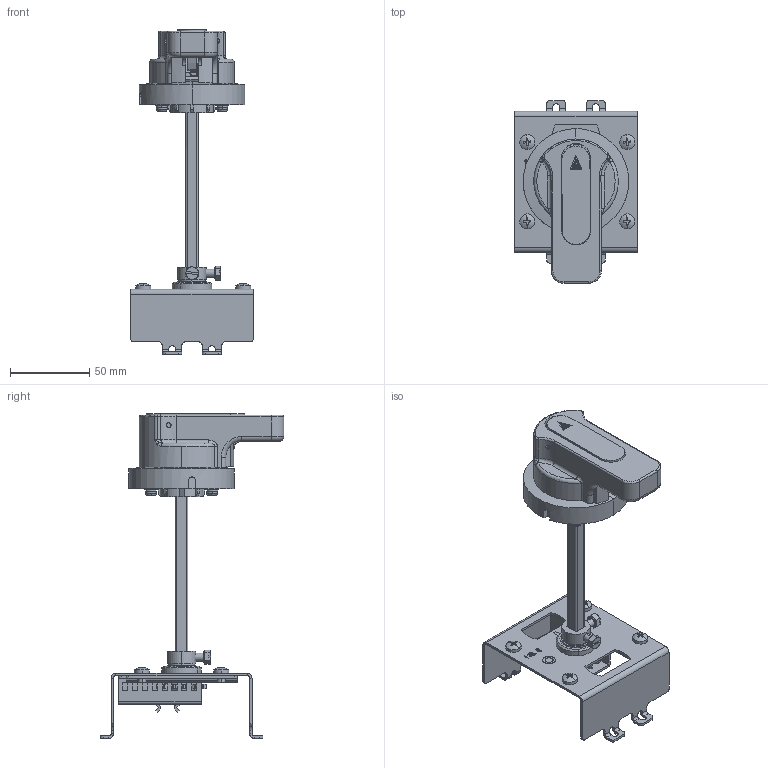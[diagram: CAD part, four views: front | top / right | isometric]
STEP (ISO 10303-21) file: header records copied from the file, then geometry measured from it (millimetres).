
FILE_DESCRIPTION (( 'STEP AP214' ), '1' );
FILE_NAME ('TGM1N-TFH-63-125 3P RH65mm+150mm.STEP', '2026-01-06T09:34:36', ( '' ), ( '' ), 'SwSTEP 2.0', 'SolidWorks 2024', '' );
FILE_SCHEMA (( 'AUTOMOTIVE_DESIGN' ));
Length unit declared in the file: millimetre
Products named in the file (12): SCFG019_88_150MM0001_1.stp; HEX_BOLTS_WITH_SLOT_ON_HEAD_G_1_1.stp; 125_70MM000_1.stp; 631250001_1.stp; TJ0598_126_2_00_1.stp; YBJ0233_125_63__0001_1.stp; 650001_1.stp; 138_G__10001_ASM_1.stp; NM1-63-00_1.stp; 138_G__0002_1.stp; CROSS_RECESSED_PAN_HEAD_SCREW_1_1.stp; TGM1N-TFH-63-125 3P RH65mm+150mm
Assembly tree (16 placements, depth 3):
  TGM1N-TFH-63-125 3P RH65mm+150mm
    138_G__10001_ASM_1.stp
      YBJ0233_125_63__0001_1.stp
      650001_1.stp
      NM1-63-00_1.stp
      631250001_1.stp
      HEX_BOLTS_WITH_SLOT_ON_HEAD_G_1_1.stp  x2
      SCFG019_88_150MM0001_1.stp
      CROSS_RECESSED_PAN_HEAD_SCREW_1_1.stp  x4
      125_70MM000_1.stp  x2
      TJ0598_126_2_00_1.stp
      138_G__0002_1.stp
Bounding box: 77 x 115.63 x 204.6 mm (x, y, z)
Volume: 44033.2 mm3; surface area: 83611.4 mm2
Topology: 14 solids, 20 shells, 1584 faces, 4350 edges, 2796 vertices
Faces by surface type: plane 794, cylinder 413, bspline 237, cone 100, torus 32, sphere 8
Entity records: 88819 total; most frequent: CARTESIAN_POINT 56426, ORIENTED_EDGE 7965, DIRECTION 4546, EDGE_CURVE 3991, VERTEX_POINT 2579, B_SPLINE_CURVE_WITH_KNOTS 2371, AXIS2_PLACEMENT_3D 1698, EDGE_LOOP 1597
